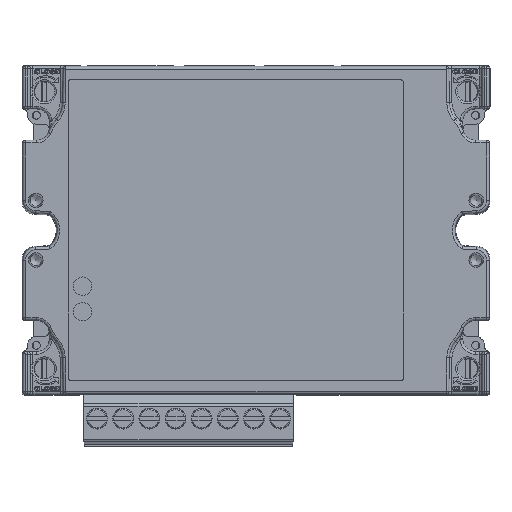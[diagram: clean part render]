
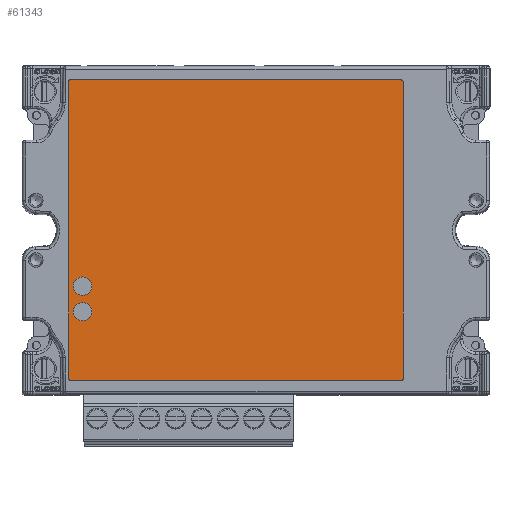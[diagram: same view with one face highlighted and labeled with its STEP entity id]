
A CAD part, top view. The second image highlights one B-rep face of the part: STEP entity #61343.
In plain terms, the highlighted planar face has unit normal (0, 0, 1).
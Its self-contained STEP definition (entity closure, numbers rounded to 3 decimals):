
#1441=FACE_BOUND('',#5503,.T.);
#1442=FACE_BOUND('',#5504,.T.);
#2253=FACE_OUTER_BOUND('',#5502,.T.);
#5502=EDGE_LOOP('',(#39639,#39640,#39641,#39642,#39643,#39644,#39645,#39646));
#5503=EDGE_LOOP('',(#39647));
#5504=EDGE_LOOP('',(#39648));
#10559=LINE('',#88838,#16402);
#10560=LINE('',#88842,#16403);
#10561=LINE('',#88846,#16404);
#10562=LINE('',#88849,#16405);
#16402=VECTOR('',#70996,56.591);
#16403=VECTOR('',#70999,63.);
#16404=VECTOR('',#71002,56.591);
#16405=VECTOR('',#71005,63.);
#22022=CIRCLE('',#64890,0.5);
#22024=CIRCLE('',#64893,0.5);
#22025=CIRCLE('',#64894,0.5);
#22026=CIRCLE('',#64895,0.5);
#22027=CIRCLE('',#64896,1.766);
#22028=CIRCLE('',#64897,1.766);
#24196=VERTEX_POINT('',#88828);
#24197=VERTEX_POINT('',#88829);
#24200=VERTEX_POINT('',#88837);
#24201=VERTEX_POINT('',#88839);
#24202=VERTEX_POINT('',#88841);
#24203=VERTEX_POINT('',#88843);
#24204=VERTEX_POINT('',#88845);
#24205=VERTEX_POINT('',#88847);
#24206=VERTEX_POINT('',#88850);
#24207=VERTEX_POINT('',#88852);
#30215=EDGE_CURVE('',#24196,#24197,#22022,.T.);
#30219=EDGE_CURVE('',#24200,#24197,#10559,.T.);
#30220=EDGE_CURVE('',#24200,#24201,#22024,.T.);
#30221=EDGE_CURVE('',#24202,#24201,#10560,.T.);
#30222=EDGE_CURVE('',#24202,#24203,#22025,.T.);
#30223=EDGE_CURVE('',#24204,#24203,#10561,.T.);
#30224=EDGE_CURVE('',#24204,#24205,#22026,.T.);
#30225=EDGE_CURVE('',#24196,#24205,#10562,.T.);
#30226=EDGE_CURVE('',#24206,#24206,#22027,.T.);
#30227=EDGE_CURVE('',#24207,#24207,#22028,.T.);
#39639=ORIENTED_EDGE('',*,*,#30215,.T.);
#39640=ORIENTED_EDGE('',*,*,#30219,.F.);
#39641=ORIENTED_EDGE('',*,*,#30220,.T.);
#39642=ORIENTED_EDGE('',*,*,#30221,.F.);
#39643=ORIENTED_EDGE('',*,*,#30222,.T.);
#39644=ORIENTED_EDGE('',*,*,#30223,.F.);
#39645=ORIENTED_EDGE('',*,*,#30224,.T.);
#39646=ORIENTED_EDGE('',*,*,#30225,.F.);
#39647=ORIENTED_EDGE('',*,*,#30226,.F.);
#39648=ORIENTED_EDGE('',*,*,#30227,.F.);
#55995=PLANE('',#64892);
#61343=ADVANCED_FACE('',(#2253,#1441,#1442),#55995,.F.);
#64890=AXIS2_PLACEMENT_3D('',#88830,#70988,#70989);
#64892=AXIS2_PLACEMENT_3D('',#88836,#70994,#70995);
#64893=AXIS2_PLACEMENT_3D('',#88840,#70997,#70998);
#64894=AXIS2_PLACEMENT_3D('',#88844,#71000,#71001);
#64895=AXIS2_PLACEMENT_3D('',#88848,#71003,#71004);
#64896=AXIS2_PLACEMENT_3D('',#88851,#71006,#71007);
#64897=AXIS2_PLACEMENT_3D('',#88853,#71008,#71009);
#70988=DIRECTION('center_axis',(0.,0.,
1.));
#70989=DIRECTION('ref_axis',(0.707,-0.707,0.));
#70994=DIRECTION('center_axis',(0.,0.,
-1.));
#70995=DIRECTION('ref_axis',(0.,-1.,0.));
#70996=DIRECTION('',(0.,-1.,0.));
#70997=DIRECTION('center_axis',(0.,0.,
1.));
#70998=DIRECTION('ref_axis',(0.707,0.707,0.));
#70999=DIRECTION('',(1.,0.,0.));
#71000=DIRECTION('center_axis',(0.,0.,
1.));
#71001=DIRECTION('ref_axis',(-0.707,0.707,0.));
#71002=DIRECTION('',(0.,1.,0.));
#71003=DIRECTION('center_axis',(0.,0.,
1.));
#71004=DIRECTION('ref_axis',(-0.707,-0.707,0.));
#71005=DIRECTION('',(-1.,0.,0.));
#71006=DIRECTION('center_axis',(0.,0.,
1.));
#71007=DIRECTION('ref_axis',(1.,0.,0.));
#71008=DIRECTION('center_axis',(0.,0.,
1.));
#71009=DIRECTION('ref_axis',(1.,0.,0.));
#88828=CARTESIAN_POINT('',(63.594,0.211,16.5));
#88829=CARTESIAN_POINT('',(64.094,0.711,16.5));
#88830=CARTESIAN_POINT('Origin',(63.594,0.711,16.5));
#88836=CARTESIAN_POINT('Origin',(32.094,29.007,16.5));
#88837=CARTESIAN_POINT('',(64.094,57.303,16.5));
#88838=CARTESIAN_POINT('',(64.094,57.803,16.5));
#88839=CARTESIAN_POINT('',(63.594,57.803,16.5));
#88840=CARTESIAN_POINT('Origin',(63.594,57.303,16.5));
#88841=CARTESIAN_POINT('',(0.594,57.803,16.5));
#88842=CARTESIAN_POINT('',(0.094,57.803,16.5));
#88843=CARTESIAN_POINT('',(0.094,57.303,16.5));
#88844=CARTESIAN_POINT('Origin',(0.594,57.303,16.5));
#88845=CARTESIAN_POINT('',(0.094,0.711,16.5));
#88846=CARTESIAN_POINT('',(0.094,0.211,16.5));
#88847=CARTESIAN_POINT('',(0.594,0.211,16.5));
#88848=CARTESIAN_POINT('Origin',(0.594,0.711,16.5));
#88849=CARTESIAN_POINT('',(64.094,0.211,16.5));
#88850=CARTESIAN_POINT('',(1.024,13.424,16.5));
#88851=CARTESIAN_POINT('Origin',(2.79,13.424,16.5));
#88852=CARTESIAN_POINT('',(1.024,18.324,16.5));
#88853=CARTESIAN_POINT('Origin',(2.79,18.324,16.5));
